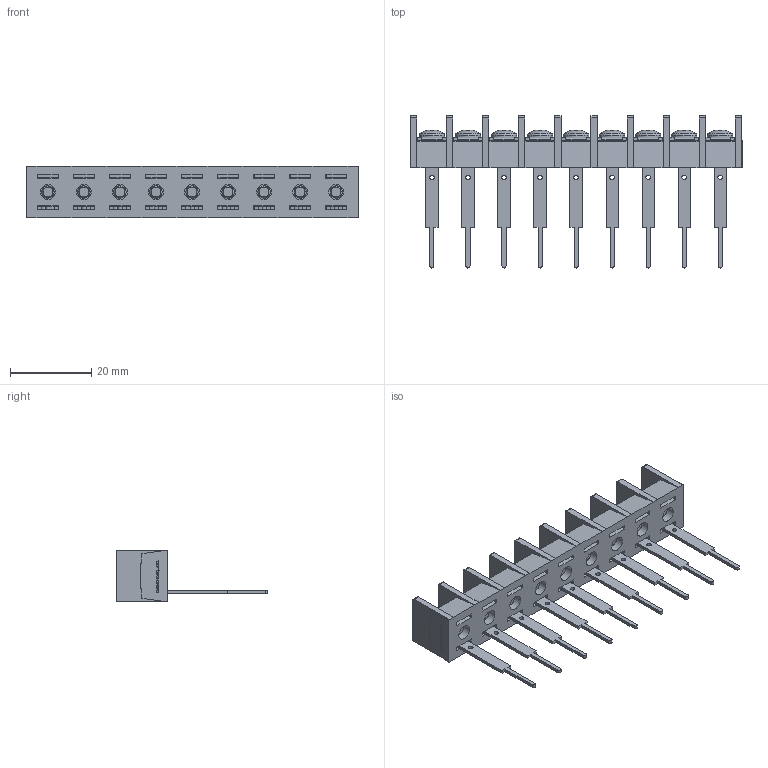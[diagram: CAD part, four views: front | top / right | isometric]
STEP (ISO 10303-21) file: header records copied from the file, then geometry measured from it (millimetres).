
FILE_DESCRIPTION(/* description */ ('Alibre Inc.'),/* implementation_level */ '2;1');
FILE_NAME(/* name */ 'export0',/* time_stamp */ '2015-10-20T20:09:29+09:00',/* author */ (''),/* organization */ (''),/* preprocessor_version */ 'ST-DEVELOPER v14',/* originating_system */ 'Alibre',/* authorisation */ '');
FILE_SCHEMA (('CONFIG_CONTROL_DESIGN'));
Length unit declared in the file: centimetre
Products named in the file (1): ID_1
Bounding box: 81.92 x 37.5 x 12.8 mm (x, y, z)
Volume: 8015.1 mm3; surface area: 10831.8 mm2
Topology: 1 solids, 145 shells, 2964 faces, 7655 edges, 5066 vertices
Faces by surface type: plane 2219, bspline 572, cylinder 101, cone 45, torus 18, sphere 9
Full cylindrical faces by diameter (mm): 1.1 x9, 3 x9, 3.7 x9, 4.6 x9, 6.3 x9
Entity records: 86241 total; most frequent: CARTESIAN_POINT 21026, ORIENTED_EDGE 15112, DIRECTION 9031, EDGE_CURVE 7556, VECTOR 5803, LINE 5803, VERTEX_POINT 5039, EDGE_LOOP 3265
